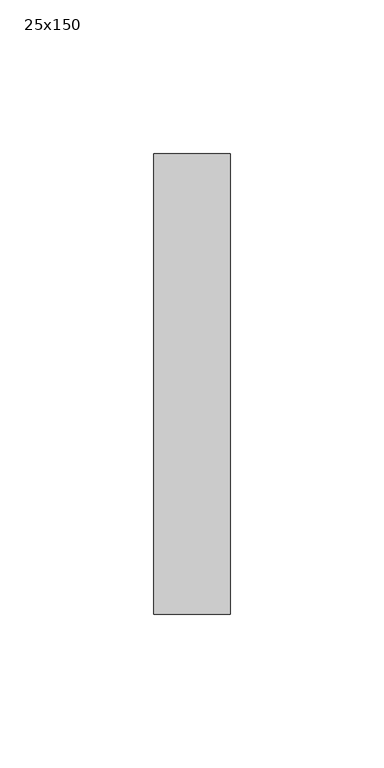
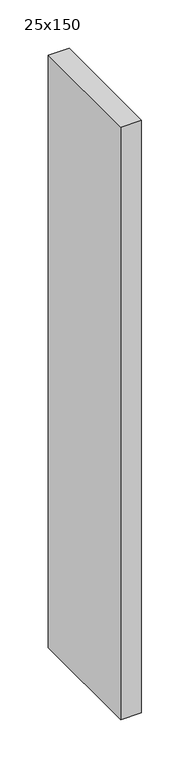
"""IFC4 building model written with IfcOpenShell, lengths in millimetres: member geometry, 長方形のマリオン : 25x150."""

from ifc_helpers import new_model, si_unit, frame, origin, place, context, project, spatial, polyline, outline, extrude, source, transform, mapped, element, save


def member_25x150_ebaab477(model_context):
    return source(origin(), model_context, "Body", "SweptSolid", [
        extrude(outline(polyline([(0.0, 75.0), (0.0, -75.0), (-25.0, -75.0), (-25.0, 75.0), (0.0, 75.0)])), frame((0.0, 0.0, -750.0), z_axis=(0.0, 0.0, 1.0), x_axis=(1.0, 0.0, 0.0)), (0.0, 0.0, 1.0), 750.0),
    ])


if __name__ == "__main__":
    model = new_model("IFC4")
    model_context = context("Model", 3, world=origin())
    ifc_project = project(units=[si_unit("LENGTHUNIT", "METRE", prefix="MILLI")], contexts=[model_context])
    site = spatial("IfcSite", under=ifc_project)
    building = spatial("IfcBuilding", under=site)
    placement = place(None, origin())
    member_25x150_shape = member_25x150_ebaab477(model_context)
    element("IfcMember", 1, ObjectType="長方形のマリオン : 25x150", at=placement, inside=building, context=model_context, shape_type="MappedRepresentation", body=[
        mapped(member_25x150_shape, transform((0.0, 0.0, 0.0), x_axis=(1.0, 0.0, 0.0), y_axis=(0.0, 1.0, 0.0), z_axis=(0.0, 0.0, 1.0))),
    ])
    save(model, "model.ifc")
